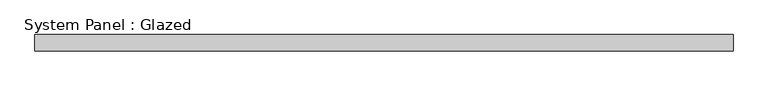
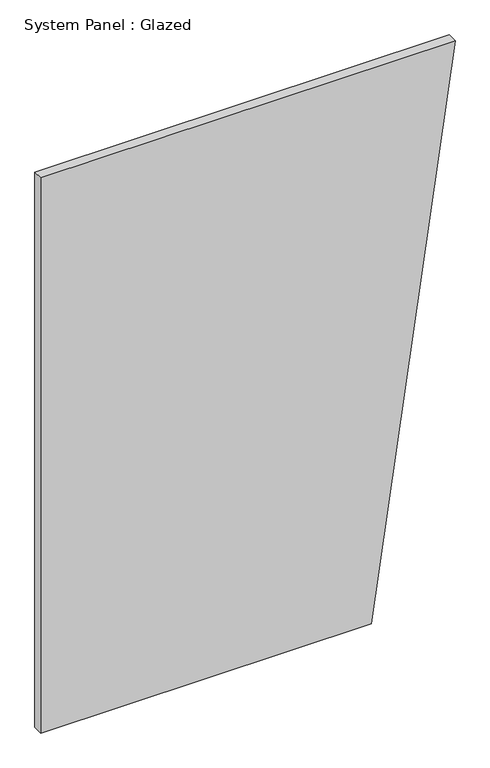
"""IFC4 building model written with IfcOpenShell, lengths in millimetres: plate geometry, System Panel : Glazed."""

from ifc_helpers import new_model, si_unit, frame, origin, place, context, project, spatial, polyline, outline, extrude, source, transform, mapped, element, save


def system_panel_glazed_c09c1aab(model_context):
    return source(origin(), model_context, "Body", "SweptSolid", [
        extrude(outline(polyline([(0.0, -537.9308733), (0.0, 320.8855182), (1524.0, 537.9308733), (1524.0, -537.9308733), (0.0, -537.9308733)])), frame((0.0, 19.05, 0.0), z_axis=(0.0, 1.0, 0.0), x_axis=(0.0, 0.0, 1.0)), (0.0, 0.0, 1.0), 25.4),
    ])


if __name__ == "__main__":
    model = new_model("IFC4")
    model_context = context("Model", 3, world=origin())
    ifc_project = project(units=[si_unit("LENGTHUNIT", "METRE", prefix="MILLI")], contexts=[model_context])
    site = spatial("IfcSite", under=ifc_project)
    building = spatial("IfcBuilding", under=site)
    placement = place(None, origin())
    system_panel_glazed_shape = system_panel_glazed_c09c1aab(model_context)
    element("IfcPlate", 1, ObjectType="System Panel : Glazed", at=placement, inside=building, context=model_context, shape_type="MappedRepresentation", body=[
        mapped(system_panel_glazed_shape, transform((0.0, 0.0, 0.0), x_axis=(1.0, 0.0, 0.0), y_axis=(0.0, 1.0, 0.0), z_axis=(0.0, 0.0, 1.0))),
    ])
    save(model, "model.ifc")
